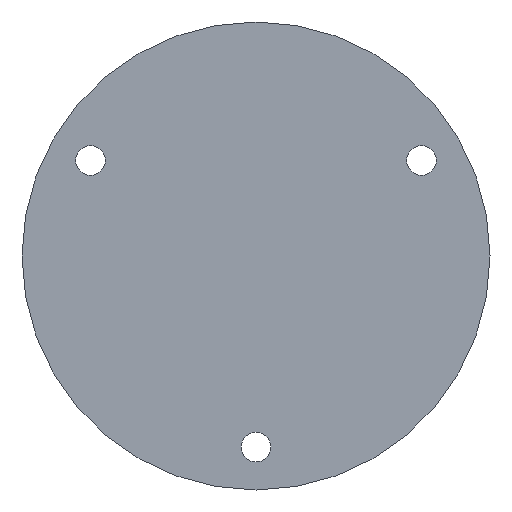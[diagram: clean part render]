
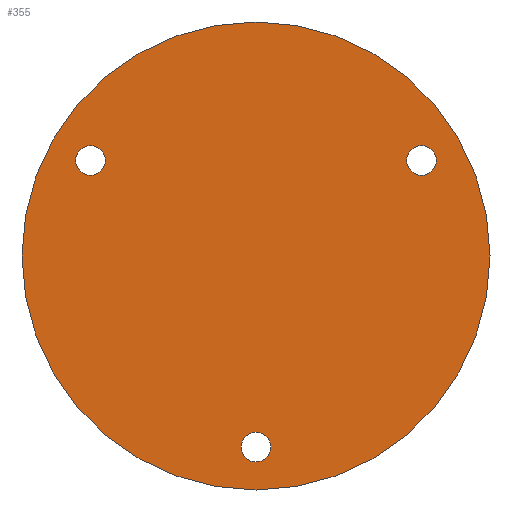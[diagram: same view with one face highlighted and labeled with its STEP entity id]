
A CAD part, front view. The second image highlights one B-rep face of the part: STEP entity #355.
In plain terms, the highlighted planar face has unit normal (0, -1, 0).
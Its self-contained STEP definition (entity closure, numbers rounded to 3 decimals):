
#3 = EDGE_CURVE ( 'NONE', #264, #86, #657, .T. ) ;
#34 = ORIENTED_EDGE ( 'NONE', *, *, #311, .F. ) ;
#37 = VERTEX_POINT ( 'NONE', #685 ) ;
#47 = CARTESIAN_POINT ( 'NONE',  ( 21.218, 0., 10.35 ) ) ;
#49 = CARTESIAN_POINT ( 'NONE',  ( 21.218, 0., 12.25 ) ) ;
#50 = DIRECTION ( 'NONE',  ( 0., 0., 1. ) ) ;
#54 = ORIENTED_EDGE ( 'NONE', *, *, #721, .T. ) ;
#59 = DIRECTION ( 'NONE',  ( 0., 1., 0. ) ) ;
#86 = VERTEX_POINT ( 'NONE', #557 ) ;
#90 = CIRCLE ( 'NONE', #629, 1.9 ) ;
#99 = EDGE_CURVE ( 'NONE', #278, #37, #326, .T. ) ;
#101 = CARTESIAN_POINT ( 'NONE',  ( 0., 0., 0. ) ) ;
#117 = CARTESIAN_POINT ( 'NONE',  ( 0., 0., -30. ) ) ;
#128 = DIRECTION ( 'NONE',  ( 0., 0., 1. ) ) ;
#141 = ORIENTED_EDGE ( 'NONE', *, *, #3, .T. ) ;
#149 = EDGE_LOOP ( 'NONE', ( #468, #34 ) ) ;
#154 = DIRECTION ( 'NONE',  ( 0., 0., 1. ) ) ;
#162 = EDGE_LOOP ( 'NONE', ( #439, #441 ) ) ;
#172 = VERTEX_POINT ( 'NONE', #416 ) ;
#178 = DIRECTION ( 'NONE',  ( 0., 1., 0. ) ) ;
#187 = EDGE_LOOP ( 'NONE', ( #54, #514 ) ) ;
#189 = EDGE_CURVE ( 'NONE', #86, #264, #386, .T. ) ;
#193 = CARTESIAN_POINT ( 'NONE',  ( -21.218, 0., 12.25 ) ) ;
#194 = CIRCLE ( 'NONE', #709, 1.9 ) ;
#196 = CARTESIAN_POINT ( 'NONE',  ( 0., 0., -24.5 ) ) ;
#197 = AXIS2_PLACEMENT_3D ( 'NONE', #389, #620, #50 ) ;
#229 = DIRECTION ( 'NONE',  ( 0., 0., 1. ) ) ;
#232 = DIRECTION ( 'NONE',  ( 0., 0., 1. ) ) ;
#249 = CARTESIAN_POINT ( 'NONE',  ( 0., 0., 0. ) ) ;
#261 = CIRCLE ( 'NONE', #316, 30. ) ;
#262 = FACE_BOUND ( 'NONE', #162, .T. ) ;
#264 = VERTEX_POINT ( 'NONE', #365 ) ;
#273 = AXIS2_PLACEMENT_3D ( 'NONE', #193, #627, #128 ) ;
#276 = CARTESIAN_POINT ( 'NONE',  ( 21.218, 0., 12.25 ) ) ;
#278 = VERTEX_POINT ( 'NONE', #520 ) ;
#280 = DIRECTION ( 'NONE',  ( 0., 1., 0. ) ) ;
#286 = DIRECTION ( 'NONE',  ( 0., 1., 0. ) ) ;
#311 = EDGE_CURVE ( 'NONE', #518, #648, #261, .T. ) ;
#316 = AXIS2_PLACEMENT_3D ( 'NONE', #249, #178, #549 ) ;
#326 = CIRCLE ( 'NONE', #421, 1.9 ) ;
#328 = DIRECTION ( 'NONE',  ( 0., 1., 0. ) ) ;
#333 = AXIS2_PLACEMENT_3D ( 'NONE', #49, #328, #229 ) ;
#355 = ADVANCED_FACE ( 'NONE', ( #262, #655, #376, #437 ), #368, .F. ) ;
#365 = CARTESIAN_POINT ( 'NONE',  ( -21.218, 0., 10.35 ) ) ;
#368 = PLANE ( 'NONE',  #669 ) ;
#376 = FACE_BOUND ( 'NONE', #187, .T. ) ;
#380 = VERTEX_POINT ( 'NONE', #47 ) ;
#386 = CIRCLE ( 'NONE', #273, 1.9 ) ;
#389 = CARTESIAN_POINT ( 'NONE',  ( -21.218, 0., 12.25 ) ) ;
#397 = DIRECTION ( 'NONE',  ( 0., 0., 1. ) ) ;
#416 = CARTESIAN_POINT ( 'NONE',  ( 21.218, 0., 14.15 ) ) ;
#421 = AXIS2_PLACEMENT_3D ( 'NONE', #564, #286, #232 ) ;
#426 = DIRECTION ( 'NONE',  ( 0., 0., 1. ) ) ;
#437 = FACE_OUTER_BOUND ( 'NONE', #149, .T. ) ;
#439 = ORIENTED_EDGE ( 'NONE', *, *, #464, .T. ) ;
#441 = ORIENTED_EDGE ( 'NONE', *, *, #511, .T. ) ;
#444 = CARTESIAN_POINT ( 'NONE',  ( 0., 0., 0. ) ) ;
#464 = EDGE_CURVE ( 'NONE', #172, #380, #194, .T. ) ;
#468 = ORIENTED_EDGE ( 'NONE', *, *, #474, .F. ) ;
#474 = EDGE_CURVE ( 'NONE', #648, #518, #566, .T. ) ;
#485 = DIRECTION ( 'NONE',  ( 0., 1., 0. ) ) ;
#511 = EDGE_CURVE ( 'NONE', #380, #172, #604, .T. ) ;
#514 = ORIENTED_EDGE ( 'NONE', *, *, #99, .T. ) ;
#518 = VERTEX_POINT ( 'NONE', #117 ) ;
#520 = CARTESIAN_POINT ( 'NONE',  ( 0., 0., -26.4 ) ) ;
#524 = ORIENTED_EDGE ( 'NONE', *, *, #189, .T. ) ;
#549 = DIRECTION ( 'NONE',  ( 0., 0., 1. ) ) ;
#553 = DIRECTION ( 'NONE',  ( 0., 0., 1. ) ) ;
#557 = CARTESIAN_POINT ( 'NONE',  ( -21.218, 0., 14.15 ) ) ;
#564 = CARTESIAN_POINT ( 'NONE',  ( 0., 0., -24.5 ) ) ;
#566 = CIRCLE ( 'NONE', #699, 30. ) ;
#572 = CARTESIAN_POINT ( 'NONE',  ( 0., 0., 30. ) ) ;
#604 = CIRCLE ( 'NONE', #333, 1.9 ) ;
#620 = DIRECTION ( 'NONE',  ( 0., 1., 0. ) ) ;
#627 = DIRECTION ( 'NONE',  ( 0., 1., 0. ) ) ;
#629 = AXIS2_PLACEMENT_3D ( 'NONE', #196, #485, #426 ) ;
#648 = VERTEX_POINT ( 'NONE', #572 ) ;
#651 = DIRECTION ( 'NONE',  ( 0., 1., 0. ) ) ;
#655 = FACE_BOUND ( 'NONE', #672, .T. ) ;
#657 = CIRCLE ( 'NONE', #197, 1.9 ) ;
#669 = AXIS2_PLACEMENT_3D ( 'NONE', #101, #651, #154 ) ;
#672 = EDGE_LOOP ( 'NONE', ( #524, #141 ) ) ;
#685 = CARTESIAN_POINT ( 'NONE',  ( 0., 0., -22.6 ) ) ;
#699 = AXIS2_PLACEMENT_3D ( 'NONE', #444, #280, #553 ) ;
#709 = AXIS2_PLACEMENT_3D ( 'NONE', #276, #59, #397 ) ;
#721 = EDGE_CURVE ( 'NONE', #37, #278, #90, .T. ) ;
